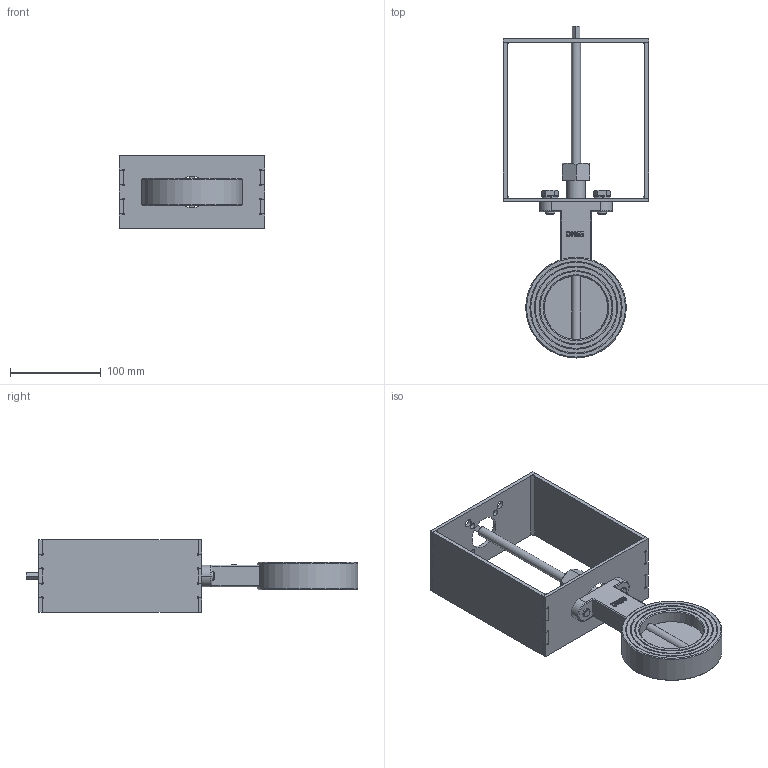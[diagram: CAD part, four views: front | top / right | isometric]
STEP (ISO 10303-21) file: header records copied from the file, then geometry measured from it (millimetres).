
FILE_DESCRIPTION(/* description */ (''),/* implementation_level */ '2;1');
FILE_NAME(/* name */ 'C:\Users\miv\Desktop\Typ 5k DN65\Typ 5k DN65.stp',/* time_stamp */ '2015-03-24T10:08:18+01:00',/* author */ ('Technik-3D'),/* organization */ (''),/* preprocessor_version */ 'ST-DEVELOPER v15.6',/* originating_system */ 'Autodesk Inventor 2015',/* authorisation */ '');
FILE_SCHEMA (('AUTOMOTIVE_DESIGN { 1 0 10303 214 3 1 1 }'));
Length unit declared in the file: millimetre
Products named in the file (14): Gussring DN65; Graphitbuchse d=10; Stopfbuchse d=10 MS; ISO 49 Kappe T1 1_2; Konsole F05,07 ab DN200_Schweißnähte; Unterteil Konsole F05, F07, ST; Seitenteil F05, F07, ST; Oberteil Konsole F05, F07, ST; Konsole F05,07 ab DN200; DIN 127 - A 10; ISO 4017 - M10 x 20DIN EN; Welle; Ronde d=70; Typ 5k DN65
Bounding box: 160 x 366.28 x 80 mm (x, y, z)
Volume: 484128.4 mm3; surface area: 192749.6 mm2
Topology: 18 solids, 18 shells, 381 faces, 933 edges, 615 vertices
Faces by surface type: plane 216, cylinder 92, bspline 40, cone 29, torus 4
Full cylindrical faces by diameter (mm): 7 x4, 8.376 x2, 9 x4, 10 x4, 10.3 x1, 10.5 x2, 11 x3, 12.7 x1, 13 x2, 14.63 x2, 16 x1, 20 x1, 35 x1, 37 x1, 70 x1, 70.5 x1, 79.625 x2, 81.625 x2, 89.75 x2, 91.75 x2, 99.875 x2, 101.875 x2, 111 x1
Entity records: 9903 total; most frequent: CARTESIAN_POINT 2265, ORIENTED_EDGE 1442, DIRECTION 1431, EDGE_CURVE 721, VERTEX_POINT 508, AXIS2_PLACEMENT_3D 500, EDGE_LOOP 447, LINE 431
